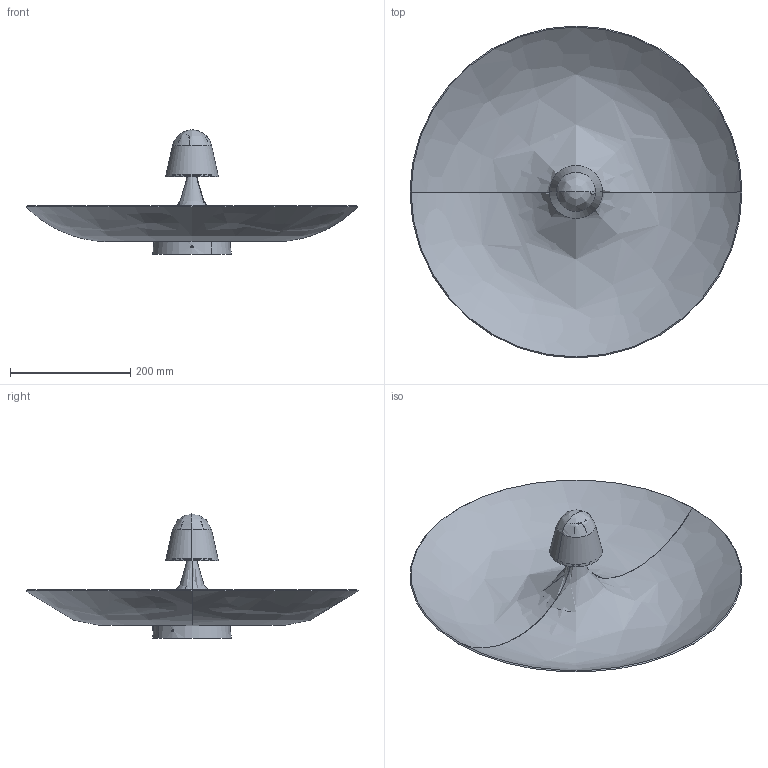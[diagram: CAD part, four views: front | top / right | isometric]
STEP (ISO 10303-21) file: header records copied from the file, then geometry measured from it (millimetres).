
FILE_DESCRIPTION(/* description */ (''),/* implementation_level */ '2;1');
FILE_NAME(/* name */ 'Kantarell Wall and Ceiling',/* time_stamp */ '2025-06-13T09:25:59+02:00',/* author */ (''),/* organization */ (''),/* preprocessor_version */ 'ST-DEVELOPER v19.2',/* originating_system */ 'Rhino 8.19',/* authorisation */ '');
FILE_SCHEMA (('CONFIG_CONTROL_DESIGN'));
Length unit declared in the file: millimetre
Products named in the file (25): Document; M4X5PM_A46; Block 30; TOOTH_WASHER_M4_A44; Block 29; KANTARELL-40_ASM47; KANTARELL-4112; Block 10; KANTARELL-4438; Block 24; KANTARELL-5016; Block 12; KANTARELL-810; Block 08; KANTARELL-3_ASM49; KANTARELL-3-14; Block 04; KANTARELL-3-226; Block 18; KANTARELL-20_ASM; KANTARELL-220; Block 15; CEILING-PLATE-3; Block 06; RUBBER_PLUG_A
Bounding box: 552.83 x 552.83 x 206.86 mm (x, y, z)
Volume: 11105.2 mm3; surface area: 684026.9 mm2
Topology: 2 solids, 369 shells, 392 faces, 1961 edges, 1921 vertices
Faces by surface type: bspline 167, cylinder 114, plane 111
Entity records: 34293 total; most frequent: CARTESIAN_POINT 18935, ORIENTED_EDGE 1953, EDGE_CURVE 1899, VERTEX_POINT 1881, DIRECTION 1699, B_SPLINE_CURVE_WITH_KNOTS 1221, AXIS2_PLACEMENT_3D 958, TRIMMED_CURVE 678
